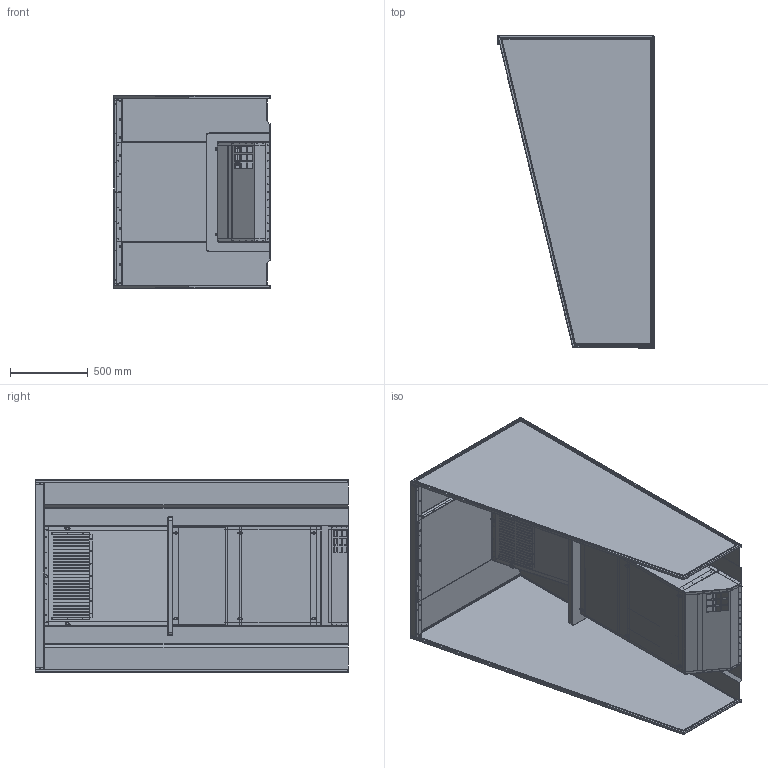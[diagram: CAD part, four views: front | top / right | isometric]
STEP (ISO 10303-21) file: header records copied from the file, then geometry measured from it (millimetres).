
FILE_DESCRIPTION(('STEP AP214'),'1');
FILE_NAME('02-100 Rygekabine.stp','2017-01-18T10:40:04',(' '),(' '),'Spatial InterOp 3D',' ',' ');
FILE_SCHEMA(('automotive_design'));
Length unit declared in the file: metre
Products named in the file (51): 02-100 Rygekabine-asm4; 02-100 Rygekabine-prt0; 02-100 Rygekabine-prt1; 02-100 Rygekabine-prt2; 02-100 Rygekabine-prt3; 02-100 Rygekabine-asm3; 02-100 Rygekabine-prt4; 02-100 Rygekabine-prt5; 02-100 Rygekabine-prt6; 02-100 Rygekabine-prt7; 02-100 Rygekabine-prt8; 02-100 Rygekabine-prt9; 02-100 Rygekabine-prt10; 02-100 Rygekabine-asm2; 02-100 Rygekabine-asm5; 02-100 Rygekabine-prt11; 02-100 Rygekabine-prt12; 02-100 Rygekabine-prt13; 02-100 Rygekabine-prt14; 02-100 Rygekabine-prt15; 02-100 Rygekabine-asm1; 02-100 Rygekabine-asm6; 02-100 Rygekabine-prt16; 02-100 Rygekabine-prt17; 02-100 Rygekabine-prt18; 02-100 Rygekabine-prt19; 02-100 Rygekabine-prt20; 02-100 Rygekabine-prt21; 02-100 Rygekabine-prt22; 02-100 Rygekabine-prt23; 02-100 Rygekabine; 02-100 Rygekabine-asm7; 02-100 Rygekabine-prt24; 02-100 Rygekabine-prt25; 02-100 Rygekabine-prt26; 02-100 Rygekabine-prt27; 02-100 Rygekabine-prt28; 02-100 Rygekabine-prt29; 02-100 Rygekabine-prt30; 02-100 Rygekabine-asm8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
Assembly tree (63 placements, depth 6):
  02-100 Rygekabine
    02-100 Rygekabine-asm1
      02-100 Rygekabine-asm2
        02-100 Rygekabine-asm3
          02-100 Rygekabine-asm4
            02-100 Rygekabine-prt0
            02-100 Rygekabine-prt1
            02-100 Rygekabine-prt2
            02-100 Rygekabine-prt3
          02-100 Rygekabine-prt4
          02-100 Rygekabine-prt5
          02-100 Rygekabine-prt6
          02-100 Rygekabine-prt7
          02-100 Rygekabine-prt8
          02-100 Rygekabine-prt9
          02-100 Rygekabine-prt10
        02-100 Rygekabine-asm5
          02-100 Rygekabine-prt11
          02-100 Rygekabine-prt12  x2
          02-100 Rygekabine-prt13
        02-100 Rygekabine-prt14
        02-100 Rygekabine-prt15
      02-100 Rygekabine-asm6
        02-100 Rygekabine-prt16
        02-100 Rygekabine-prt17
      02-100 Rygekabine-prt18  x4
      02-100 Rygekabine-prt19
      02-100 Rygekabine-prt20
      02-100 Rygekabine-prt21
      02-100 Rygekabine-prt22
      02-100 Rygekabine-prt23  x9
    02-100 Rygekabine-asm7
      02-100 Rygekabine-prt24
      02-100 Rygekabine-prt25
      02-100 Rygekabine-prt26  x2
      02-100 Rygekabine-prt27
      02-100 Rygekabine-prt28
      02-100 Rygekabine-prt29
      02-100 Rygekabine-prt30
    02-100 Rygekabine-asm8
      02-100 Rygekabine-prt31
      02-100 Rygekabine-prt32
      02-100 Rygekabine-prt33
      02-100 Rygekabine-prt34
      02-100 Rygekabine-prt35
    02-100 Rygekabine-asm8
      02-100 Rygekabine-prt31
      02-100 Rygekabine-prt32
      02-100 Rygekabine-prt33
      02-100 Rygekabine-prt34
      02-100 Rygekabine-prt35
Bounding box: 1006.03 x 2007.63 x 1235.46 mm (x, y, z)
Volume: 65579004.1 mm3; surface area: 30934147.5 mm2
Topology: 54 solids, 54 shells, 3720 faces, 10412 edges, 6810 vertices
Faces by surface type: cylinder 1892, plane 1552, bspline 194, torus 40, sphere 24, extrusion 18
Entity records: 135972 total; most frequent: CARTESIAN_POINT 20771, DIRECTION 18880, ORIENTED_EDGE 17940, EDGE_CURVE 8970, AXIS2_PLACEMENT_3D 6806, VERTEX_POINT 5915, VECTOR 5268, LINE 5266
